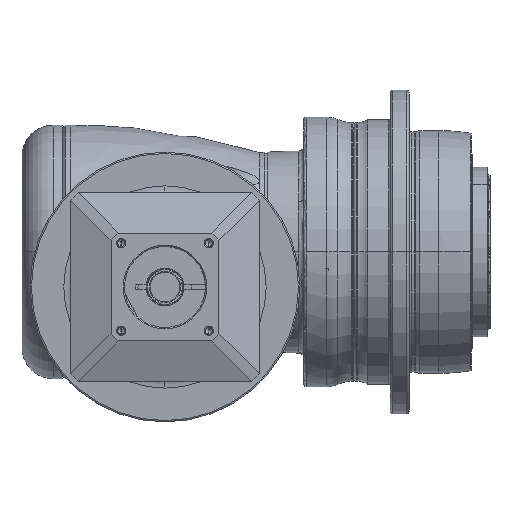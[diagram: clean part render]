
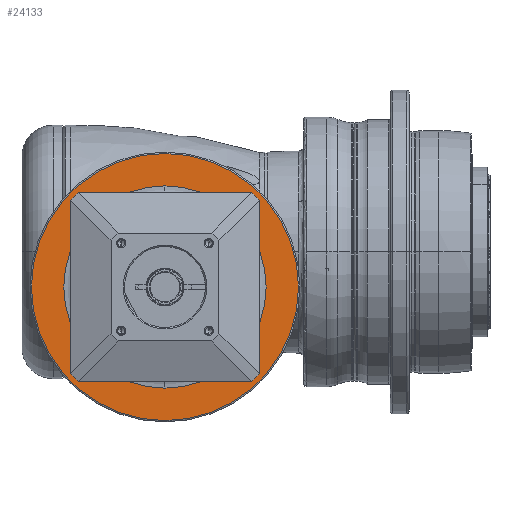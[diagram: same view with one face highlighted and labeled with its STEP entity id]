
A CAD part, front view. The second image highlights one B-rep face of the part: STEP entity #24133.
In plain terms, the highlighted planar face has unit normal (0, -1, 0) as drawn and (1, 0, 0) by its records, which use the part's own axes.
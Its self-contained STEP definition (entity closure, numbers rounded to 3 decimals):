
#22822=CARTESIAN_POINT('',(-10.,0.,0.));
#22823=DIRECTION('',(-1.,0.,0.));
#22824=DIRECTION('',(0.,-1.,0.));
#22825=AXIS2_PLACEMENT_3D('',#22822,#22823,#22824);
#22827=CARTESIAN_POINT('',(-10.,0.,0.));
#22828=DIRECTION('',(-1.,0.,0.));
#22829=DIRECTION('',(0.,1.,0.));
#22830=AXIS2_PLACEMENT_3D('',#22827,#22828,#22829);
#22832=CARTESIAN_POINT('',(-10.,0.,0.));
#22833=DIRECTION('',(-1.,0.,0.));
#22834=DIRECTION('',(0.,-1.,0.));
#22835=AXIS2_PLACEMENT_3D('',#22832,#22833,#22834);
#22837=CARTESIAN_POINT('',(-10.,0.,0.));
#22838=DIRECTION('',(-1.,0.,0.));
#22839=DIRECTION('',(0.,1.,0.));
#22840=AXIS2_PLACEMENT_3D('',#22837,#22838,#22839);
#23110=CARTESIAN_POINT('',(-10.,-49.5,0.));
#23111=CARTESIAN_POINT('',(-10.,49.5,0.));
#23112=VERTEX_POINT('',#23110);
#23113=VERTEX_POINT('',#23111);
#23168=CARTESIAN_POINT('',(-10.,-37.5,0.));
#23169=CARTESIAN_POINT('',(-10.,37.5,0.));
#23170=VERTEX_POINT('',#23168);
#23171=VERTEX_POINT('',#23169);
#24118=CARTESIAN_POINT('',(-10.,0.,0.));
#24119=DIRECTION('',(1.,0.,0.));
#24120=DIRECTION('',(0.,-1.,0.));
#24121=AXIS2_PLACEMENT_3D('',#24118,#24119,#24120);
#24122=PLANE('',#24121);
#24123=ORIENTED_EDGE('',*,*,#24074,.T.);
#24124=ORIENTED_EDGE('',*,*,#24059,.T.);
#24125=EDGE_LOOP('',(#24123,#24124));
#24126=FACE_OUTER_BOUND('',#24125,.F.);
#24128=ORIENTED_EDGE('',*,*,#24127,.F.);
#24130=ORIENTED_EDGE('',*,*,#24129,.F.);
#24131=EDGE_LOOP('',(#24128,#24130));
#24132=FACE_BOUND('',#24131,.F.);
#24133=ADVANCED_FACE('',(#24126,#24132),#24122,.T.);
#22826=CIRCLE('',#22825,37.5);
#22831=CIRCLE('',#22830,37.5);
#22836=CIRCLE('',#22835,49.5);
#22841=CIRCLE('',#22840,49.5);
#24059=EDGE_CURVE('',#23113,#23112,#22841,.T.);
#24074=EDGE_CURVE('',#23112,#23113,#22836,.T.);
#24127=EDGE_CURVE('',#23170,#23171,#22826,.T.);
#24129=EDGE_CURVE('',#23171,#23170,#22831,.T.);
